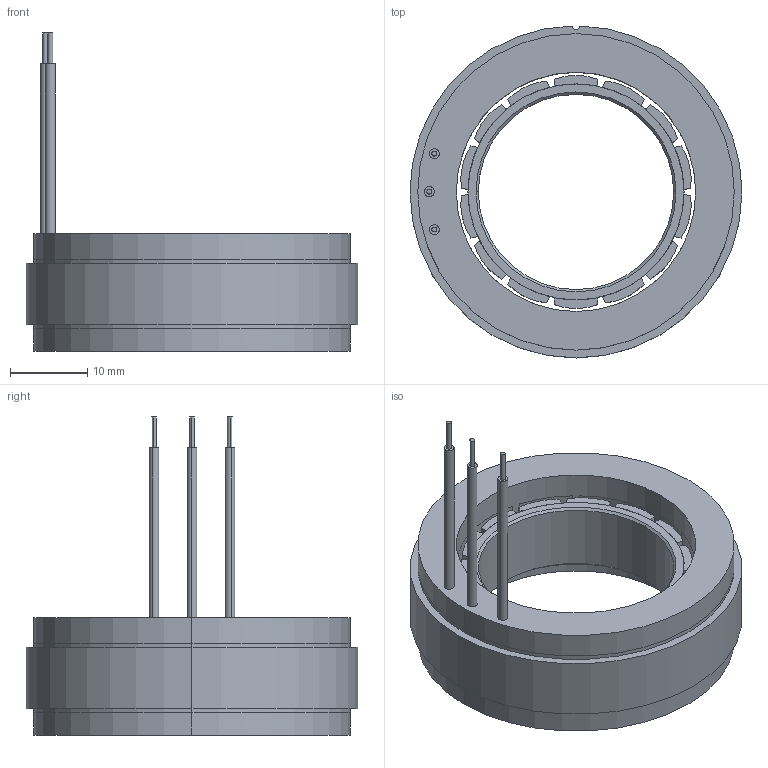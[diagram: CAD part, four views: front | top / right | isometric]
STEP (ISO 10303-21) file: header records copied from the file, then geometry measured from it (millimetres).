
FILE_DESCRIPTION (( 'STEP AP203' ), '1' );
FILE_NAME ('4317萇儂.STEP', '2025-06-07T01:03:35', ( '' ), ( '' ), 'SwSTEP 2.0', 'SolidWorks 2023', '' );
FILE_SCHEMA (( 'CONFIG_CONTROL_DESIGN' ));
Length unit declared in the file: millimetre
Products named in the file (10): AWG22线黑; 4317胶; 4317电机; 4317线圈; 4317定子-内绕; 4317转子; AWG22电缆 -1; 4317轴; 4317铁心涂覆-内绕; 4317磁铁
Assembly tree (35 placements, depth 3):
  4317电机
    4317定子-内绕
      4317铁心涂覆-内绕
      4317线圈  x12
      4317胶
    AWG22电缆 -1  x3
      AWG22线黑
    4317转子
      4317轴
      4317磁铁  x14
Bounding box: 43 x 42.99 x 41.2 mm (x, y, z)
Volume: 15897.5 mm3; surface area: 17392.5 mm2
Topology: 32 solids, 32 shells, 455 faces, 1145 edges, 762 vertices
Faces by surface type: plane 268, cylinder 183, cone 4
Entity records: 6893 total; most frequent: DIRECTION 943, CARTESIAN_POINT 907, ORIENTED_EDGE 850, EDGE_CURVE 425, AXIS2_PLACEMENT_3D 318, LINE 307, VECTOR 307, VERTEX_POINT 282
